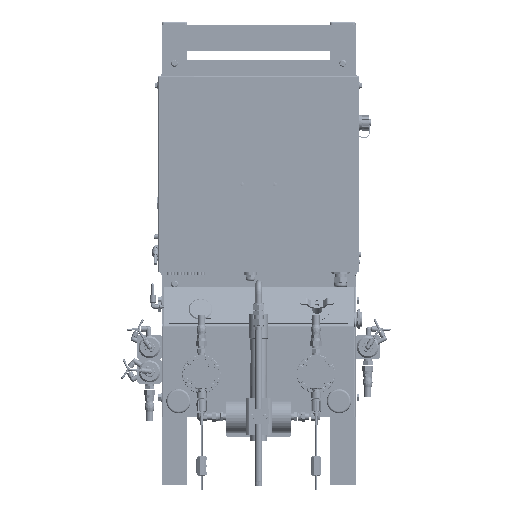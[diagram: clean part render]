
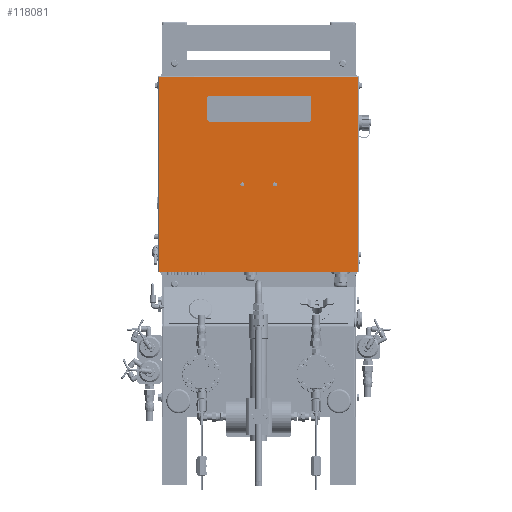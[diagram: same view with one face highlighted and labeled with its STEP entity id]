
A CAD part, top view. The second image highlights one B-rep face of the part: STEP entity #118081.
In plain terms, the highlighted planar face has unit normal (0, 0, 1).
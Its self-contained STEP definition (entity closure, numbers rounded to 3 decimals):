
#116554=DIRECTION('',(0.,-1.,0.));
#116555=VECTOR('',#116554,15.03);
#116556=CARTESIAN_POINT('',(7.675,21.77,-0.865));
#116557=LINE('',#116556,#116555);
#116558=DIRECTION('',(-1.,0.,0.));
#116559=VECTOR('',#116558,15.35);
#116560=CARTESIAN_POINT('',(7.675,6.74,-0.865));
#116561=LINE('',#116560,#116559);
#116562=DIRECTION('',(0.,1.,0.));
#116563=VECTOR('',#116562,15.03);
#116564=CARTESIAN_POINT('',(-7.675,6.74,-0.865));
#116565=LINE('',#116564,#116563);
#116566=DIRECTION('',(1.,0.,0.));
#116567=VECTOR('',#116566,15.35);
#116568=CARTESIAN_POINT('',(-7.675,21.77,-0.865));
#116569=LINE('',#116568,#116567);
#117690=CARTESIAN_POINT('',(-7.675,21.77,-0.865));
#117691=CARTESIAN_POINT('',(7.675,21.77,-0.865));
#117692=VERTEX_POINT('',#117690);
#117693=VERTEX_POINT('',#117691);
#117694=CARTESIAN_POINT('',(7.675,6.74,-0.865));
#117695=VERTEX_POINT('',#117694);
#117696=CARTESIAN_POINT('',(-7.675,6.74,-0.865));
#117697=VERTEX_POINT('',#117696);
#118066=CARTESIAN_POINT('',(0.,14.255,-0.865));
#118067=DIRECTION('',(0.,0.,-1.));
#118068=DIRECTION('',(-1.,0.,0.));
#118069=AXIS2_PLACEMENT_3D('',#118066,#118067,#118068);
#118070=PLANE('',#118069);
#118072=ORIENTED_EDGE('',*,*,#118071,.T.);
#118074=ORIENTED_EDGE('',*,*,#118073,.T.);
#118076=ORIENTED_EDGE('',*,*,#118075,.T.);
#118078=ORIENTED_EDGE('',*,*,#118077,.T.);
#118079=EDGE_LOOP('',(#118072,#118074,#118076,#118078));
#118080=FACE_OUTER_BOUND('',#118079,.F.);
#118081=ADVANCED_FACE('',(#118080),#118070,.F.);
#118071=EDGE_CURVE('',#117693,#117695,#116557,.T.);
#118073=EDGE_CURVE('',#117695,#117697,#116561,.T.);
#118075=EDGE_CURVE('',#117697,#117692,#116565,.T.);
#118077=EDGE_CURVE('',#117692,#117693,#116569,.T.);
